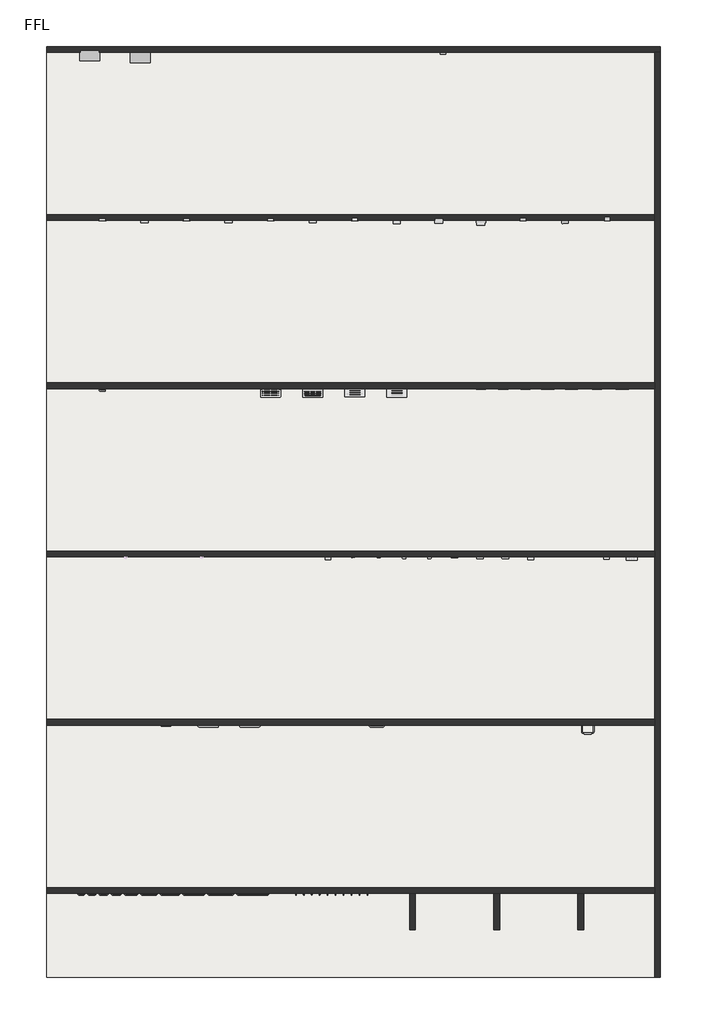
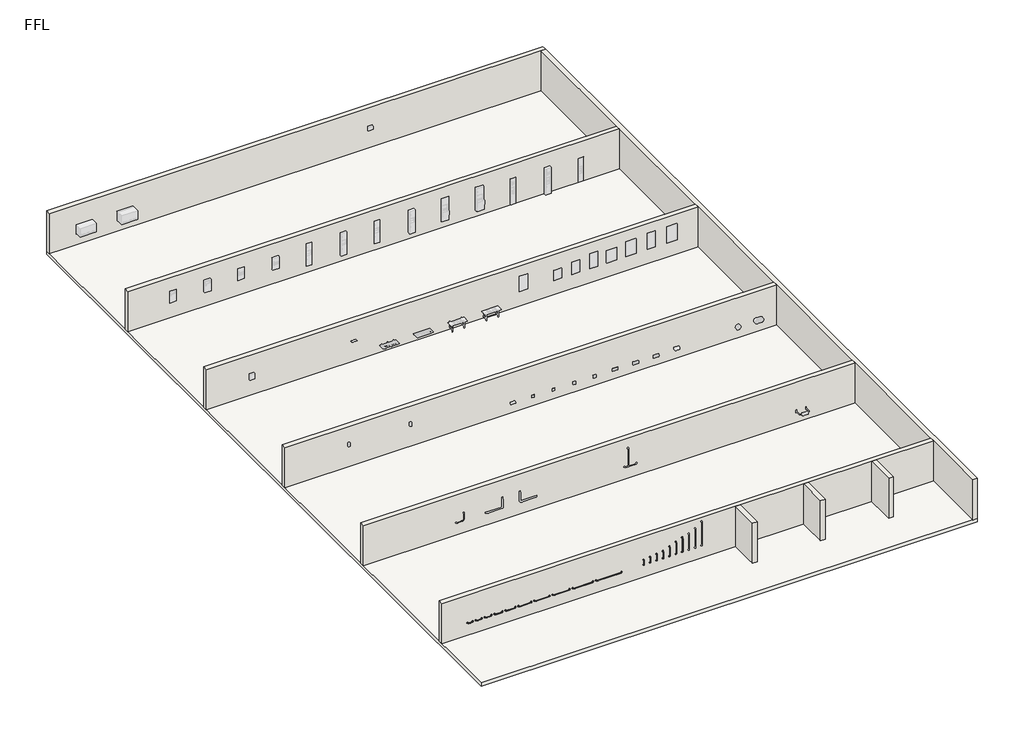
# One storey, part 1 of 2: 17 proxies, 10 walls, 1 slab.
"""IFC4 building model written with IfcOpenShell, lengths in millimetres."""

from ifc_helpers import new_model, si_unit, frame, origin, origin_with_axes, place, context, project, spatial, polyline, circle_curve, outline, extrude, faceted_brep, transform, mapped, element, save
from ifc_brep_helpers import plane_surface, revolved_surface, advanced_brep
from components import specialty_equipment_8ea1b790, specialty_equipment_a2c242b3, specialty_equipment_439356c4, specialty_equipment_0fb7e8bb, specialty_equipment_b467d5ad, specialty_equipment_a5db7934, specialty_equipment_07138ebc, specialty_equipment_db36f565, specialty_equipment_1621b8f0, specialty_equipment_a866a359, specialty_equipment_4fe1ec2f, specialty_equipment_1fe2ded2, specialty_equipment_a7c67ece, specialty_equipment_e08adb38, specialty_equipment_ed02a0b0, specialty_equipment_da49c81a, specialty_equipment_5776d19e

model = new_model("IFC4")

# Units and contexts
model_context = context("Model", 3, world=origin())
ifc_project = project(units=[si_unit("LENGTHUNIT", "METRE", prefix="MILLI")], contexts=[model_context])

# Site, building, storey
site = spatial("IfcSite", under=ifc_project)
building = spatial("IfcBuilding", under=site)
storey = spatial("IfcBuildingStorey", under=building, Name="FFL", Elevation=0.0)

# Proxies
placement = place(None, origin())
specialty_equipment_shape = specialty_equipment_8ea1b790(model_context)
element("IfcBuildingElementProxy", 1, Name="Grab Rail_Metlam_Straight_Horizontal : 1532long x 90d x 32h (ML336SS)", ObjectType="Grab Rail_Metlam_Straight_Horizontal : 1532long x 90d x 32h (ML336SS)", at=placement, inside=storey, context=model_context, shape_type="MappedRepresentation", body=[
    mapped(specialty_equipment_shape, transform((-11246.7352929, -31051.7606696, 0.0), x_axis=(1.0, 0.0, 0.0), y_axis=(0.0, 1.0, 0.0), z_axis=(0.0, 0.0, 1.0))),
])
specialty_equipment_2_shape = specialty_equipment_a2c242b3(model_context)
element("IfcBuildingElementProxy", 2, Name="Grab Rail_Metlam_Straight_Horizontal : 1232long x 90d x 32h (ML335SS)", ObjectType="Grab Rail_Metlam_Straight_Horizontal : 1232long x 90d x 32h (ML335SS)", at=placement, inside=storey, context=model_context, shape_type="MappedRepresentation", body=[
    mapped(specialty_equipment_2_shape, transform((-12624.7352929, -31051.7606696, 0.0), x_axis=(1.0, 0.0, 0.0), y_axis=(0.0, 1.0, 0.0), z_axis=(0.0, 0.0, 1.0))),
])
specialty_equipment_3_shape = specialty_equipment_439356c4(model_context)
element("IfcBuildingElementProxy", 3, Name="Grab Rail_Metlam_Straight_Horizontal : 1032long x 90d x 32h (ML334_1SS)", ObjectType="Grab Rail_Metlam_Straight_Horizontal : 1032long x 90d x 32h (ML334_1SS)", at=placement, inside=storey, context=model_context, shape_type="MappedRepresentation", body=[
    mapped(specialty_equipment_3_shape, transform((-13802.7352929, -31051.7606696, 0.0), x_axis=(1.0, 0.0, 0.0), y_axis=(0.0, 1.0, 0.0), z_axis=(0.0, 0.0, 1.0))),
])
specialty_equipment_4_shape = specialty_equipment_0fb7e8bb(model_context)
element("IfcBuildingElementProxy", 4, Name="Grab Rail_Metlam_Straight_Horizontal : 932long x 90d x 32h (ML333_1SS)", ObjectType="Grab Rail_Metlam_Straight_Horizontal : 932long x 90d x 32h (ML333_1SS)", at=placement, inside=storey, context=model_context, shape_type="MappedRepresentation", body=[
    mapped(specialty_equipment_4_shape, transform((-14880.7352929, -31051.7606696, 0.0), x_axis=(1.0, 0.0, 0.0), y_axis=(0.0, 1.0, 0.0), z_axis=(0.0, 0.0, 1.0))),
])
specialty_equipment_5_shape = specialty_equipment_b467d5ad(model_context)
element("IfcBuildingElementProxy", 5, Name="Grab Rail_Metlam_Straight_Horizontal : 782long x 90d x 32h (ML332SS)", ObjectType="Grab Rail_Metlam_Straight_Horizontal : 782long x 90d x 32h (ML332SS)", at=placement, inside=storey, context=model_context, shape_type="MappedRepresentation", body=[
    mapped(specialty_equipment_5_shape, transform((-15808.7352929, -31051.7606696, 0.0), x_axis=(1.0, 0.0, 0.0), y_axis=(0.0, 1.0, 0.0), z_axis=(0.0, 0.0, 1.0))),
])
specialty_equipment_6_shape = specialty_equipment_a5db7934(model_context)
element("IfcBuildingElementProxy", 6, Name="Grab Rail_Metlam_Straight_Horizontal : 632long x 90d x 32h (ML331_1SS)", ObjectType="Grab Rail_Metlam_Straight_Horizontal : 632long x 90d x 32h (ML331_1SS)", at=placement, inside=storey, context=model_context, shape_type="MappedRepresentation", body=[
    mapped(specialty_equipment_6_shape, transform((-16586.7352929, -31051.7606696, 0.0), x_axis=(1.0, 0.0, 0.0), y_axis=(0.0, 1.0, 0.0), z_axis=(0.0, 0.0, 1.0))),
])
specialty_equipment_7_shape = specialty_equipment_07138ebc(model_context)
element("IfcBuildingElementProxy", 7, Name="Grab Rail_Metlam_Straight_Horizontal : 482long x 90d x 32h (ML330_1SS)", ObjectType="Grab Rail_Metlam_Straight_Horizontal : 482long x 90d x 32h (ML330_1SS)", at=placement, inside=storey, context=model_context, shape_type="MappedRepresentation", body=[
    mapped(specialty_equipment_7_shape, transform((-17214.7352929, -31051.7606696, 0.0), x_axis=(1.0, 0.0, 0.0), y_axis=(0.0, 1.0, 0.0), z_axis=(0.0, 0.0, 1.0))),
])
specialty_equipment_8_shape = specialty_equipment_db36f565(model_context)
element("IfcBuildingElementProxy", 8, Name="Grab Rail_Metlam_Straight_Horizontal : 432long x 90d x 32h (ML329SS)", ObjectType="Grab Rail_Metlam_Straight_Horizontal : 432long x 90d x 32h (ML329SS)", at=placement, inside=storey, context=model_context, shape_type="MappedRepresentation", body=[
    mapped(specialty_equipment_8_shape, transform((-17792.7352929, -31051.7606696, 0.0), x_axis=(1.0, 0.0, 0.0), y_axis=(0.0, 1.0, 0.0), z_axis=(0.0, 0.0, 1.0))),
])
specialty_equipment_9_shape = specialty_equipment_1621b8f0(model_context)
element("IfcBuildingElementProxy", 9, Name="Grab Rail_Metlam_Straight_Horizontal : 382long x 90d x 32h (ML328SS)", ObjectType="Grab Rail_Metlam_Straight_Horizontal : 382long x 90d x 32h (ML328SS)", at=placement, inside=storey, context=model_context, shape_type="MappedRepresentation", body=[
    mapped(specialty_equipment_9_shape, transform((-18320.7352929, -31051.7606696, 0.0), x_axis=(1.0, 0.0, 0.0), y_axis=(0.0, 1.0, 0.0), z_axis=(0.0, 0.0, 1.0))),
])
specialty_equipment_10_shape = specialty_equipment_a866a359(model_context)
element("IfcBuildingElementProxy", 10, Name="Grab Rail_Metlam_Straight_Horizontal : 332long x 90d x 32h (ML327_1SS)", ObjectType="Grab Rail_Metlam_Straight_Horizontal : 332long x 90d x 32h (ML327_1SS)", at=placement, inside=storey, context=model_context, shape_type="MappedRepresentation", body=[
    mapped(specialty_equipment_10_shape, transform((-18798.7352929, -31051.7606696, 0.0), x_axis=(1.0, 0.0, 0.0), y_axis=(0.0, 1.0, 0.0), z_axis=(0.0, 0.0, 1.0))),
])
specialty_equipment_11_shape = specialty_equipment_4fe1ec2f(model_context)
element("IfcBuildingElementProxy", 11, Name="Grab Rail_Metlam_Straight_Vertical : 932long x 90d x 32w (ML333_1SS)", ObjectType="Grab Rail_Metlam_Straight_Vertical : 932long x 90d x 32w (ML333_1SS)", at=placement, inside=storey, context=model_context, shape_type="MappedRepresentation", body=[
    mapped(specialty_equipment_11_shape, transform((-6141.1278918, -31051.7606696, 0.0), x_axis=(1.0, 0.0, 0.0), y_axis=(0.0, 1.0, 0.0), z_axis=(0.0, 0.0, 1.0))),
])
specialty_equipment_12_shape = specialty_equipment_1fe2ded2(model_context)
element("IfcBuildingElementProxy", 12, Name="Grab Rail_Metlam_Straight_Vertical : 782long x 90d x 32w (ML332SS)", ObjectType="Grab Rail_Metlam_Straight_Vertical : 782long x 90d x 32w (ML332SS)", at=placement, inside=storey, context=model_context, shape_type="MappedRepresentation", body=[
    mapped(specialty_equipment_12_shape, transform((-6519.1278918, -31051.7606696, 0.0), x_axis=(1.0, 0.0, 0.0), y_axis=(0.0, 1.0, 0.0), z_axis=(0.0, 0.0, 1.0))),
])
specialty_equipment_13_shape = specialty_equipment_a7c67ece(model_context)
element("IfcBuildingElementProxy", 13, Name="Grab Rail_Metlam_Straight_Vertical : 632long x 90d x 32w (ML331_1SS)", ObjectType="Grab Rail_Metlam_Straight_Vertical : 632long x 90d x 32w (ML331_1SS)", at=placement, inside=storey, context=model_context, shape_type="MappedRepresentation", body=[
    mapped(specialty_equipment_13_shape, transform((-6897.1278918, -31051.7606696, 0.0), x_axis=(1.0, 0.0, 0.0), y_axis=(0.0, 1.0, 0.0), z_axis=(0.0, 0.0, 1.0))),
])
specialty_equipment_14_shape = specialty_equipment_e08adb38(model_context)
element("IfcBuildingElementProxy", 14, Name="Grab Rail_Metlam_Straight_Vertical : 482long x 90d x 32w (ML330_1SS)", ObjectType="Grab Rail_Metlam_Straight_Vertical : 482long x 90d x 32w (ML330_1SS)", at=placement, inside=storey, context=model_context, shape_type="MappedRepresentation", body=[
    mapped(specialty_equipment_14_shape, transform((-7275.1278918, -31051.7606696, 0.0), x_axis=(1.0, 0.0, 0.0), y_axis=(0.0, 1.0, 0.0), z_axis=(0.0, 0.0, 1.0))),
])
specialty_equipment_15_shape = specialty_equipment_ed02a0b0(model_context)
element("IfcBuildingElementProxy", 15, Name="Grab Rail_Metlam_Straight_Vertical : 432long x 90d x 32w (ML329SS)", ObjectType="Grab Rail_Metlam_Straight_Vertical : 432long x 90d x 32w (ML329SS)", at=placement, inside=storey, context=model_context, shape_type="MappedRepresentation", body=[
    mapped(specialty_equipment_15_shape, transform((-7653.1278918, -31051.7606696, 0.0), x_axis=(1.0, 0.0, 0.0), y_axis=(0.0, 1.0, 0.0), z_axis=(0.0, 0.0, 1.0))),
])
specialty_equipment_16_shape = specialty_equipment_da49c81a(model_context)
element("IfcBuildingElementProxy", 16, Name="Grab Rail_Metlam_Straight_Vertical : 382long x 90d x 32w (ML328SS)", ObjectType="Grab Rail_Metlam_Straight_Vertical : 382long x 90d x 32w (ML328SS)", at=placement, inside=storey, context=model_context, shape_type="MappedRepresentation", body=[
    mapped(specialty_equipment_16_shape, transform((-8031.1278918, -31051.7606696, 0.0), x_axis=(1.0, 0.0, 0.0), y_axis=(0.0, 1.0, 0.0), z_axis=(0.0, 0.0, 1.0))),
])
specialty_equipment_17_shape = specialty_equipment_5776d19e(model_context)
element("IfcBuildingElementProxy", 17, Name="Grab Rail_Metlam_Straight_Vertical : 332long x 90d x 32w (ML327_1SS)", ObjectType="Grab Rail_Metlam_Straight_Vertical : 332long x 90d x 32w (ML327_1SS)", at=placement, inside=storey, context=model_context, shape_type="MappedRepresentation", body=[
    mapped(specialty_equipment_17_shape, transform((-8409.1278918, -31051.7606696, 0.0), x_axis=(1.0, 0.0, 0.0), y_axis=(0.0, 1.0, 0.0), z_axis=(0.0, 0.0, 1.0))),
])

# Slab
element("IfcSlab", 18, ObjectType="Generic 200mm", at=placement, inside=storey, context=model_context, shape_type="SweptSolid", body=[
    extrude(outline(polyline([(8926.4475301, 9218.2393304), (8926.4475301, -35051.7606696), (-20265.7352929, -35051.7606696), (-20265.7352929, 9218.2393304), (8926.4475301, 9218.2393304)])), frame((0.0, 0.0, -200.0), z_axis=(0.0, 0.0, 1.0), x_axis=(1.0, 0.0, 0.0)), (0.0, 0.0, 1.0), 200.0),
])

# Walls
element("IfcWall", 19, ObjectType="Double brick - 270", at=placement, inside=storey, context=model_context, shape_type="Brep", body=[
    faceted_brep([(-20265.7352929, 8948.2393304, 0.0), (8656.4475301, 8948.2393304, 0.0), (8926.4475301, 8948.2393304, 0.0), (8926.4475301, 8948.2393304, 2500.0), (8656.4475301, 8948.2393304, 2500.0), (-20265.7352929, 8948.2393304, 2500.0), (-18662.2352929, 8948.2393304, 1227.5), (-17757.2352929, 8948.2393304, 1227.5), (-17757.2352929, 8948.2393304, 697.5), (-18662.2352929, 8948.2393304, 697.5), (8926.4475301, 9218.2393304, 0.0), (-20265.7352929, 9218.2393304, 0.0), (-20265.7352929, 9218.2393304, 2500.0), (8926.4475301, 9218.2393304, 2500.0), (-17757.2352929, 9040.2393304, 1227.5), (-18662.2352929, 9040.2393304, 1227.5), (-18662.2352929, 9040.2393304, 697.5), (-17757.2352929, 9040.2393304, 697.5)], [[[0, 1, 2, 3, 4, 5], [6, 7, 8, 9]], [[10, 11, 12, 13]], [[2, 1, 0, 11, 10]], [[5, 4, 3, 13, 12]], [[0, 5, 12, 11]], [[3, 2, 10, 13]], [[14, 15, 16, 17]], [[15, 14, 7, 6]], [[16, 15, 6, 9]], [[17, 16, 9, 8]], [[14, 17, 8, 7]]]),
])
element("IfcWall", 20, ObjectType="Double brick - 270", at=placement, inside=storey, context=model_context, shape_type="Brep", body=[
    faceted_brep([(8926.4475301, -35051.7606696, 0.0), (8926.4475301, 8948.2393304, 0.0), (8926.4475301, 8948.2393304, 2500.0), (8926.4475301, -35051.7606696, 2500.0), (8656.4475301, -35051.7606696, 0.0), (8656.4475301, -35051.7606696, 2500.0), (8656.4475301, -31051.7606696, 2500.0), (8656.4475301, -30781.7606696, 2500.0), (8656.4475301, -23051.7606696, 2500.0), (8656.4475301, -22781.7606696, 2500.0), (8656.4475301, -15051.7606696, 2500.0), (8656.4475301, -14781.7606696, 2500.0), (8656.4475301, -7051.7606696, 2500.0), (8656.4475301, -6781.7606696, 2500.0), (8656.4475301, 948.2393304, 2500.0), (8656.4475301, 1218.2393304, 2500.0), (8656.4475301, 8948.2393304, 2500.0), (8656.4475301, 8948.2393304, 0.0), (8656.4475301, 1218.2393304, 0.0), (8656.4475301, 948.2393304, 0.0), (8656.4475301, -6781.7606696, 0.0), (8656.4475301, -7051.7606696, 0.0), (8656.4475301, -14781.7606696, 0.0), (8656.4475301, -15051.7606696, 0.0), (8656.4475301, -22781.7606696, 0.0), (8656.4475301, -23051.7606696, 0.0), (8656.4475301, -30781.7606696, 0.0), (8656.4475301, -31051.7606696, 0.0)], [[[0, 1, 2, 3]], [[4, 5, 6, 7, 8, 9, 10, 11, 12, 13, 14, 15, 16, 17, 18, 19, 20, 21, 22, 23, 24, 25, 26, 27]], [[1, 0, 4, 27, 26, 25, 24, 23, 22, 21, 20, 19, 18, 17]], [[3, 2, 16, 15, 14, 13, 12, 11, 10, 9, 8, 7, 6, 5]], [[0, 3, 5, 4]], [[2, 1, 17, 16]]]),
])
element("IfcWall", 21, ObjectType="Double brick - 270", at=placement, inside=storey, context=model_context, shape_type="Brep", body=[
    faceted_brep([(-20265.7352929, 948.2393304, 0.0), (8656.4475301, 948.2393304, 0.0), (8656.4475301, 948.2393304, 2500.0), (-20265.7352929, 948.2393304, 2500.0), (-1809.7352929, 948.2393304, 415.0), (-1809.7352929, 948.2393304, 1805.0), (-1409.7352929, 948.2393304, 1805.0), (-1409.7352929, 948.2393304, 415.0), (-9759.7352929, 948.2393304, 416.0), (-9759.7352929, 948.2393304, 1781.0), (-9459.7352929, 948.2393304, 1781.0), (-9459.7352929, 948.2393304, 416.0), (-17447.2352929, 948.2393304, 947.5), (-17772.2352929, 948.2393304, 947.5), (-17772.2352929, 948.2393304, 1632.5), (-17447.2352929, 948.2393304, 1632.5), (-13771.7352929, 948.2393304, 1632.5), (-13447.7352929, 948.2393304, 1632.5), (-13447.7352929, 948.2393304, 947.5), (-13771.7352929, 948.2393304, 947.5), (-5759.7352929, 948.2393304, 1781.0), (-5459.7352929, 948.2393304, 1781.0), (-5459.7352929, 948.2393304, 416.0), (-5759.7352929, 948.2393304, 416.0), (2245.2647071, 948.2393304, 1612.5), (2535.2647071, 948.2393304, 1612.5), (2535.2647071, 948.2393304, 12.5), (2245.2647071, 948.2393304, 12.5), (6245.2647071, 948.2393304, 1486.0), (6535.2647071, 948.2393304, 1486.0), (6535.2647071, 948.2393304, 14.0), (6245.2647071, 948.2393304, 14.0), (8656.4475301, 1218.2393304, 0.0), (-20265.7352929, 1218.2393304, 0.0), (-20265.7352929, 1218.2393304, 2500.0), (8656.4475301, 1218.2393304, 2500.0), (-9759.7352929, 1048.2393304, 416.0), (-9759.7352929, 1048.2393304, 1781.0), (-9459.7352929, 1048.2393304, 416.0), (-1809.7352929, 1055.2393304, 415.0), (-1809.7352929, 1055.2393304, 1805.0), (6535.2647071, 1130.2393304, 1486.0), (6245.2647071, 1130.2393304, 1486.0), (6245.2647071, 1130.2393304, 14.0), (6535.2647071, 1130.2393304, 14.0), (-17447.2352929, 1048.2393304, 947.5), (-17447.2352929, 1048.2393304, 1632.5), (-17772.2352929, 1048.2393304, 1632.5), (-17772.2352929, 1048.2393304, 947.5), (-13771.7352929, 1045.2393304, 1632.5), (-13771.7352929, 1045.2393304, 947.5), (-13447.7352929, 1045.2393304, 947.5), (-13447.7352929, 1045.2393304, 1632.5), (-9459.7352929, 1048.2393304, 1781.0), (-5759.7352929, 1088.2393304, 1781.0), (-5759.7352929, 1088.2393304, 416.0), (-5459.7352929, 1088.2393304, 416.0), (-5459.7352929, 1088.2393304, 1781.0), (-1409.7352929, 1055.2393304, 415.0), (-1409.7352929, 1055.2393304, 1805.0), (2535.2647071, 1083.2393304, 1612.5), (2245.2647071, 1083.2393304, 1612.5), (2245.2647071, 1083.2393304, 12.5), (2535.2647071, 1083.2393304, 12.5)], [[[0, 1, 2, 3], [4, 5, 6, 7], [8, 9, 10, 11], [12, 13, 14, 15], [16, 17, 18, 19], [20, 21, 22, 23], [24, 25, 26, 27], [28, 29, 30, 31]], [[32, 33, 34, 35]], [[1, 0, 33, 32]], [[3, 2, 35, 34]], [[0, 3, 34, 33]], [[36, 37, 9, 8]], [[36, 8, 11, 38]], [[39, 40, 5, 4]], [[41, 42, 43, 44]], [[2, 1, 32, 35]], [[45, 46, 47, 48]], [[48, 13, 12, 45]], [[46, 45, 12, 15]], [[47, 46, 15, 14]], [[48, 47, 14, 13]], [[49, 50, 51, 52]], [[52, 17, 16, 49]], [[50, 49, 16, 19]], [[51, 50, 19, 18]], [[52, 51, 18, 17]], [[53, 37, 36, 38]], [[37, 53, 10, 9]], [[53, 38, 11, 10]], [[54, 55, 56, 57]], [[54, 57, 21, 20]], [[55, 54, 20, 23]], [[56, 55, 23, 22]], [[57, 56, 22, 21]], [[40, 39, 58, 59]], [[59, 6, 5, 40]], [[58, 39, 4, 7]], [[6, 59, 58, 7]], [[60, 61, 62, 63]], [[61, 60, 25, 24]], [[62, 61, 24, 27]], [[63, 62, 27, 26]], [[60, 63, 26, 25]], [[42, 41, 29, 28]], [[43, 42, 28, 31]], [[44, 43, 31, 30]], [[41, 44, 30, 29]]]),
])
element("IfcWall", 22, ObjectType="Double brick - 270", at=placement, inside=storey, context=model_context, shape_type="SweptSolid", body=[
    extrude(outline(polyline([(8656.4475301, -7051.7606696), (-20265.7352929, -7051.7606696), (-20265.7352929, -6781.7606696), (8656.4475301, -6781.7606696), (8656.4475301, -7051.7606696)])), origin_with_axes(), (0.0, 0.0, 1.0), 2500.0),
])
element("IfcWall", 23, ObjectType="Double brick - 270", at=placement, inside=storey, context=model_context, shape_type="AdvancedBrep", body=[
    advanced_brep(
    [(-20265.7352929, -15051.7606696, 0.0), (8656.4475301, -15051.7606696, 0.0), (8656.4475301, -15051.7606696, 2500.0), (-20265.7352929, -15051.7606696, 2500.0), (-4405.9426161, -15051.7606696, 648.948314), (-4405.9426161, -15051.7606696, 521.051686), (-4530.1426161, -15051.7606696, 521.051686), (-4530.1426161, -15051.7606696, 648.948314), (-5609.4426161, -15051.7606696, 648.948314), (-5609.4426161, -15051.7606696, 521.051686), (-5733.6426161, -15051.7606696, 521.051686), (-5733.6426161, -15051.7606696, 648.948314), (-875.6352929, -15051.7606696, 648.948314), (-875.6352929, -15051.7606696, 521.051686), (-999.8352929, -15051.7606696, 521.051686), (-999.8352929, -15051.7606696, 648.948314), (-714.6352929, -15051.7606696, 648.948314), (-714.6352929, -15051.7606696, 521.051686), (-838.8352929, -15051.7606696, 521.051686), (-838.8352929, -15051.7606696, 648.948314), (8656.4475301, -14781.7606696, 0.0), (-20265.7352929, -14781.7606696, 0.0), (-20265.7352929, -14781.7606696, 2500.0), (8656.4475301, -14781.7606696, 2500.0)],
    [
        (0, 1),
        (1, 2),
        (2, 3),
        (3, 0),
        (4, 5),
        (5, 6),
        (6, 7),
        (7, 4),
        (8, 9),
        (9, 10),
        (10, 11),
        (11, 8),
        (12, 13),
        (13, 14),
        (14, 15),
        (15, 12),
        (16, 17),
        (17, 18),
        (18, 19),
        (19, 16),
        (20, 21),
        (21, 22),
        (22, 23),
        (23, 20),
        (0, 21),
        (20, 1),
        (2, 23),
        (22, 3),
        (4, 5, circle_curve(frame((-4405.9426161, -15071.7647852, 585.0), z_axis=(-1.0, 0.0, 0.0), x_axis=(0.0, 1.0, 0.0)), 67.0041156)),
        (6, 7, circle_curve(frame((-4530.1426161, -15071.7647852, 585.0), z_axis=(1.0, 0.0, 0.0), x_axis=(0.0, 1.0, 0.0)), 67.0041156)),
        (8, 9, circle_curve(frame((-5609.4426161, -15071.7647852, 585.0), z_axis=(-1.0, 0.0, 0.0), x_axis=(0.0, 1.0, 0.0)), 67.0041156)),
        (10, 11, circle_curve(frame((-5733.6426161, -15071.7647852, 585.0), z_axis=(1.0, 0.0, 0.0), x_axis=(0.0, 1.0, 0.0)), 67.0041156)),
        (12, 13, circle_curve(frame((-875.6352929, -15071.7647852, 585.0), z_axis=(-1.0, 0.0, 0.0), x_axis=(0.0, 1.0, 0.0)), 67.0041156)),
        (14, 15, circle_curve(frame((-999.8352929, -15071.7647852, 585.0), z_axis=(1.0, 0.0, 0.0), x_axis=(0.0, 1.0, 0.0)), 67.0041156)),
        (16, 17, circle_curve(frame((-714.6352929, -15071.7647852, 585.0), z_axis=(-1.0, 0.0, 0.0), x_axis=(0.0, 1.0, 0.0)), 67.0041156)),
        (18, 19, circle_curve(frame((-838.8352929, -15071.7647852, 585.0), z_axis=(1.0, 0.0, 0.0), x_axis=(0.0, 1.0, 0.0)), 67.0041156)),
    ],
    [
        plane_surface(frame((-11159.7352929, -15051.7606696, 0.0), z_axis=(0.0, -1.0, 0.0), x_axis=(1.0, 0.0, 0.0))),
        plane_surface(frame((-11159.7352929, -14781.7606696, 0.0), z_axis=(0.0, 1.0, 0.0), x_axis=(-1.0, 0.0, 0.0))),
        plane_surface(frame((-20265.7352929, -15051.7606696, 0.0), z_axis=(0.0, 0.0, -1.0), x_axis=(0.0, 1.0, 0.0))),
        plane_surface(frame((8791.4475301, -15051.7606696, 2500.0), z_axis=(0.0, 0.0, 1.0), x_axis=(0.0, 1.0, 0.0))),
        plane_surface(frame((-20265.7352929, -15051.7606696, 2500.0), z_axis=(-1.0, 0.0, 0.0), x_axis=(0.0, 1.0, 0.0))),
        plane_surface(frame((-4405.9426161, -15053.7606696, 649.5399359), z_axis=(-1.0, 0.0, 0.0), x_axis=(0.0, 0.0, -1.0))),
        plane_surface(frame((-4530.1426161, -15053.7606696, 649.5399359), z_axis=(1.0, 0.0, 0.0), x_axis=(0.0, 0.0, 1.0))),
        revolved_surface(polyline([(-4405.9426161, -15004.760669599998, 585.0), (-4530.1426161, -15004.760669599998, 585.0)]), (-4530.1426161, -15071.7647852, 585.0), (1.0, 0.0, 0.0)),
        plane_surface(frame((-5609.4426161, -15053.7606696, 665.5), z_axis=(-1.0, 0.0, 0.0), x_axis=(0.0, 0.0, -1.0))),
        plane_surface(frame((-5733.6426161, -15053.7606696, 665.5), z_axis=(1.0, 0.0, 0.0), x_axis=(0.0, 0.0, 1.0))),
        revolved_surface(polyline([(-5609.4426161, -15004.760669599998, 585.0), (-5733.6426161, -15004.760669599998, 585.0)]), (-5733.6426161, -15071.7647852, 585.0), (1.0, 0.0, 0.0)),
        plane_surface(frame((-875.6352929, -15053.7606696, 649.5399359), z_axis=(-1.0, 0.0, 0.0), x_axis=(0.0, 0.0, -1.0))),
        plane_surface(frame((-999.8352929, -15053.7606696, 649.5399359), z_axis=(1.0, 0.0, 0.0), x_axis=(0.0, 0.0, 1.0))),
        revolved_surface(polyline([(-875.6352929, -15004.760669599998, 585.0), (-999.8352929, -15004.760669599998, 585.0)]), (-999.8352929, -15071.7647852, 585.0), (1.0, 0.0, 0.0)),
        plane_surface(frame((-714.6352929, -15053.7606696, 649.5399359), z_axis=(-1.0, 0.0, 0.0), x_axis=(0.0, 0.0, -1.0))),
        plane_surface(frame((-838.8352929, -15053.7606696, 649.5399359), z_axis=(1.0, 0.0, 0.0), x_axis=(0.0, 0.0, 1.0))),
        revolved_surface(polyline([(-714.6352929, -15004.760669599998, 585.0), (-838.8352929, -15004.760669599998, 585.0)]), (-838.8352929, -15071.7647852, 585.0), (1.0, 0.0, 0.0)),
        plane_surface(frame((8656.4475301, -14881.7606696, 0.0), z_axis=(1.0, 0.0, 0.0), x_axis=(0.0, -1.0, 0.0))),
    ],
    [
        (0, [[1, 2, 3, 4], [5, 6, 7, 8], [9, 10, 11, 12], [13, 14, 15, 16], [17, 18, 19, 20]]),
        (1, [[21, 22, 23, 24]]),
        (2, [[-1, 25, -21, 26]]),
        (3, [[-3, 27, -23, 28]]),
        (4, [[-4, -28, -22, -25]]),
        (5, [[29, -5]]),
        (6, [[30, -7]]),
        (7, [[-29, -8, -30, -6]]),
        (8, [[31, -9]]),
        (9, [[32, -11]]),
        (10, [[-31, -12, -32, -10]]),
        (11, [[33, -13]]),
        (12, [[34, -15]]),
        (13, [[-33, -16, -34, -14]]),
        (14, [[35, -17]]),
        (15, [[36, -19]]),
        (16, [[-35, -20, -36, -18]]),
        (17, [[-2, -26, -24, -27]]),
    ],
),
])
element("IfcWall", 24, ObjectType="Double brick - 270", at=placement, inside=storey, context=model_context, shape_type="SweptSolid", body=[
    extrude(outline(polyline([(8656.4475301, -23051.7606696), (-20265.7352929, -23051.7606696), (-20265.7352929, -22781.7606696), (8656.4475301, -22781.7606696), (8656.4475301, -23051.7606696)])), origin_with_axes(), (0.0, 0.0, 1.0), 2500.0),
])
element("IfcWall", 25, ObjectType="Double brick - 270", at=placement, inside=storey, context=model_context, shape_type="Brep", body=[
    faceted_brep([(-20265.7352929, -31051.7606696, 0.0), (-2994.7352929, -31051.7606696, 0.0), (-2724.7352929, -31051.7606696, 0.0), (1005.2647071, -31051.7606696, 0.0), (1275.2647071, -31051.7606696, 0.0), (5005.2647071, -31051.7606696, 0.0), (5275.2647071, -31051.7606696, 0.0), (8656.4475301, -31051.7606696, 0.0), (8656.4475301, -31051.7606696, 2500.0), (5275.2647071, -31051.7606696, 2500.0), (5005.2647071, -31051.7606696, 2500.0), (1275.2647071, -31051.7606696, 2500.0), (1005.2647071, -31051.7606696, 2500.0), (-2724.7352929, -31051.7606696, 2500.0), (-2994.7352929, -31051.7606696, 2500.0), (-20265.7352929, -31051.7606696, 2500.0), (-20265.7352929, -30781.7606696, 0.0), (-20265.7352929, -30781.7606696, 2500.0), (8656.4475301, -30781.7606696, 2500.0), (8656.4475301, -30781.7606696, 0.0)], [[[0, 1, 2, 3, 4, 5, 6, 7, 8, 9, 10, 11, 12, 13, 14, 15]], [[16, 17, 18, 19]], [[7, 6, 5, 4, 3, 2, 1, 0, 16, 19]], [[15, 14, 13, 12, 11, 10, 9, 8, 18, 17]], [[0, 15, 17, 16]], [[8, 7, 19, 18]]]),
])
element("IfcWall", 26, ObjectType="Double brick - 270", at=placement, inside=storey, context=model_context, shape_type="SweptSolid", body=[
    extrude(outline(polyline([(-2994.7352929, -32781.7606696), (-2994.7352929, -31051.7606696), (-2724.7352929, -31051.7606696), (-2724.7352929, -32781.7606696), (-2994.7352929, -32781.7606696)])), origin_with_axes(), (0.0, 0.0, 1.0), 2500.0),
])
element("IfcWall", 27, ObjectType="Double brick - 270", at=placement, inside=storey, context=model_context, shape_type="SweptSolid", body=[
    extrude(outline(polyline([(1005.2647071, -32781.7606696), (1005.2647071, -31051.7606696), (1275.2647071, -31051.7606696), (1275.2647071, -32781.7606696), (1005.2647071, -32781.7606696)])), origin_with_axes(), (0.0, 0.0, 1.0), 2500.0),
])
element("IfcWall", 28, ObjectType="Double brick - 270", at=placement, inside=storey, context=model_context, shape_type="SweptSolid", body=[
    extrude(outline(polyline([(5005.2647071, -32781.7606696), (5005.2647071, -31051.7606696), (5275.2647071, -31051.7606696), (5275.2647071, -32781.7606696), (5005.2647071, -32781.7606696)])), origin_with_axes(), (0.0, 0.0, 1.0), 2500.0),
])

save(model, "model.ifc")
